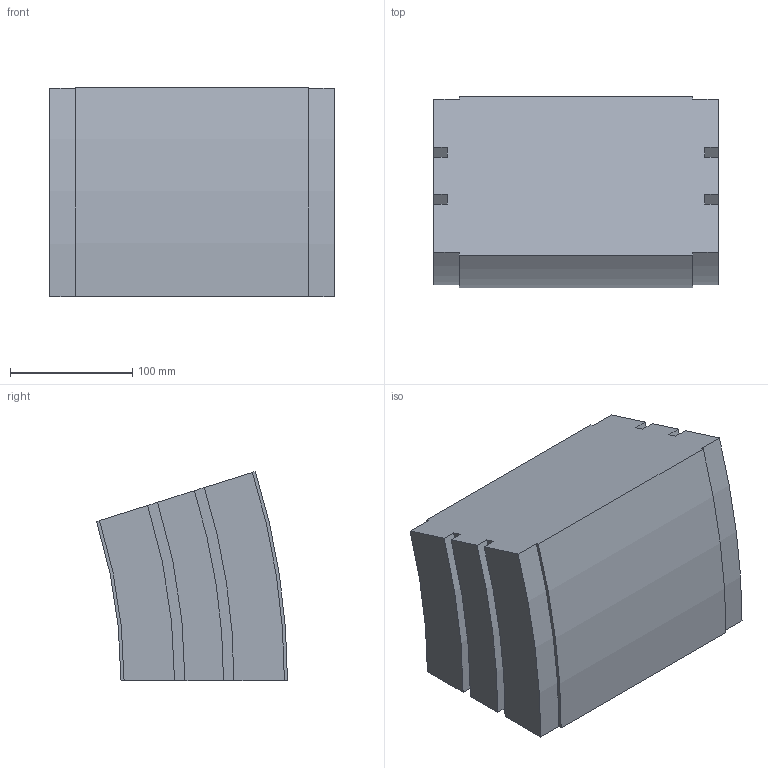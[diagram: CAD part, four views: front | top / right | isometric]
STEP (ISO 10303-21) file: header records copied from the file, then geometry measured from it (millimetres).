
FILE_DESCRIPTION (( 'STEP AP214' ), '1' );
FILE_NAME ('02.150V17.230.N FS-230-MTC-150 Bocht verticaal 17,5°.STEP', '2013-03-29T13:02:03', ( 'Gebruiker' ), ( '' ), 'SwSTEP 2.0', 'SolidWorks 2012', '' );
FILE_SCHEMA (( 'AUTOMOTIVE_DESIGN' ));
Length unit declared in the file: millimetre
Products named in the file (1): 02.150V17.230.N FS-230-MTC-150 Bocht verticaal 17,5°
Bounding box: 232.5 x 155.99 x 170.8 mm (x, y, z)
Volume: 4739703.4 mm3; surface area: 188063 mm2
Topology: 1 solids, 1 shells, 30 faces, 84 edges, 56 vertices
Faces by surface type: plane 16, cylinder 14
Entity records: 1010 total; most frequent: DIRECTION 174, CARTESIAN_POINT 171, ORIENTED_EDGE 168, EDGE_CURVE 84, AXIS2_PLACEMENT_3D 59, VERTEX_POINT 56, LINE 56, VECTOR 56
